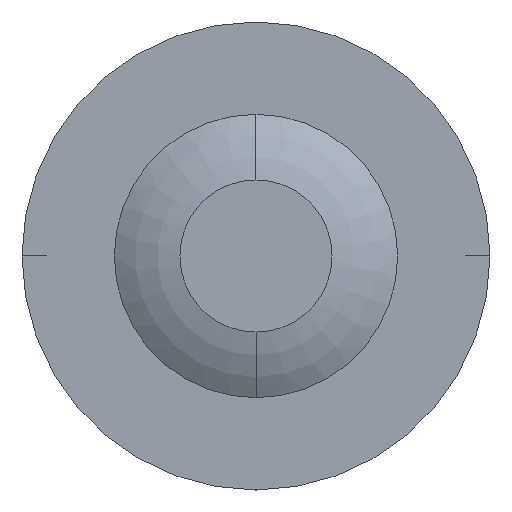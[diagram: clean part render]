
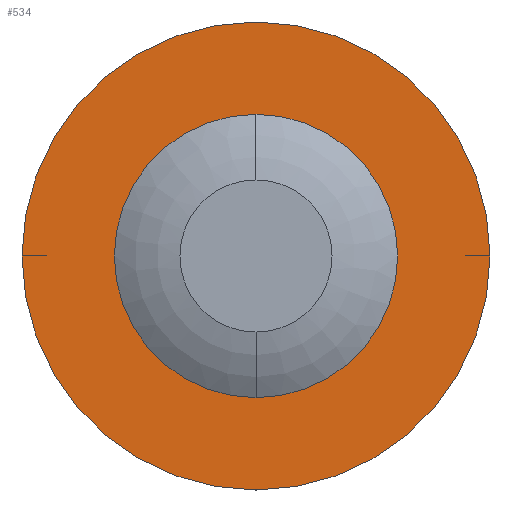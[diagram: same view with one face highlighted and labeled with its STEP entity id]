
A CAD part, front view. The second image highlights one B-rep face of the part: STEP entity #534.
In plain terms, the highlighted planar face has unit normal (0, -1, 0).
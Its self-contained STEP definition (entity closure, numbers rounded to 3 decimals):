
#534=ADVANCED_FACE('',(#1363,#1364),#1365,.T.);
#1363=FACE_OUTER_BOUND('',#2486,.T.);
#1364=FACE_BOUND('',#2487,.T.);
#1365=PLANE('',#2488);
#2486=EDGE_LOOP('',(#4024,#4025));
#2487=EDGE_LOOP('',(#4026,#4027,#4028));
#2488=AXIS2_PLACEMENT_3D('',#4029,#4030,#4031);
#4024=ORIENTED_EDGE('',*,*,#6768,.F.);
#4025=ORIENTED_EDGE('',*,*,#6769,.F.);
#4026=ORIENTED_EDGE('',*,*,#6770,.F.);
#4027=ORIENTED_EDGE('',*,*,#6771,.F.);
#4028=ORIENTED_EDGE('',*,*,#6563,.F.);
#4029=CARTESIAN_POINT('',(0.,-13.0,0.));
#4030=DIRECTION('',(0.0,-1.0,0.));
#4031=DIRECTION('',(1.0,0.0,0.0));
#6563=EDGE_CURVE('',#7764,#7757,#7766,.T.);
#6768=EDGE_CURVE('',#8099,#8100,#8101,.T.);
#6769=EDGE_CURVE('',#8100,#8099,#8102,.T.);
#6770=EDGE_CURVE('',#8103,#7764,#8104,.T.);
#6771=EDGE_CURVE('',#7757,#8103,#8105,.T.);
#7757=VERTEX_POINT('',#9294);
#7764=VERTEX_POINT('',#9301);
#7766=CIRCLE('',#9303,2.422);
#8099=VERTEX_POINT('',#9718);
#8100=VERTEX_POINT('',#9719);
#8101=CIRCLE('',#9720,4.0);
#8102=CIRCLE('',#9721,4.0);
#8103=VERTEX_POINT('',#9722);
#8104=CIRCLE('',#9723,2.422);
#8105=CIRCLE('',#9724,2.422);
#9294=CARTESIAN_POINT('',(0.,-13.0,2.422));
#9301=CARTESIAN_POINT('',(0.,-13.0,-2.422));
#9303=AXIS2_PLACEMENT_3D('',#11130,#11131,#11132);
#9718=CARTESIAN_POINT('',(4.0,-13.0,0.));
#9719=CARTESIAN_POINT('',(-4.0,-13.0,0.));
#9720=AXIS2_PLACEMENT_3D('',#11449,#11450,#11451);
#9721=AXIS2_PLACEMENT_3D('',#11452,#11453,#11454);
#9722=CARTESIAN_POINT('',(-2.422,-13.0,0.));
#9723=AXIS2_PLACEMENT_3D('',#11455,#11456,#11457);
#9724=AXIS2_PLACEMENT_3D('',#11458,#11459,#11460);
#11130=CARTESIAN_POINT('',(0.0,-13.0,0.));
#11131=DIRECTION('',(0.0,-1.0,0.));
#11132=DIRECTION('',(1.0,0.0,0.0));
#11449=CARTESIAN_POINT('',(0.,-13.0,0.));
#11450=DIRECTION('',(0.0,1.0,0.));
#11451=DIRECTION('',(1.0,0.0,0.0));
#11452=CARTESIAN_POINT('',(0.,-13.0,0.));
#11453=DIRECTION('',(0.0,1.0,0.));
#11454=DIRECTION('',(1.0,0.0,0.0));
#11455=CARTESIAN_POINT('',(0.0,-13.0,0.));
#11456=DIRECTION('',(0.0,-1.0,0.));
#11457=DIRECTION('',(1.0,0.0,0.0));
#11458=CARTESIAN_POINT('',(0.0,-13.0,0.));
#11459=DIRECTION('',(0.0,-1.0,0.));
#11460=DIRECTION('',(1.0,0.0,0.0));
